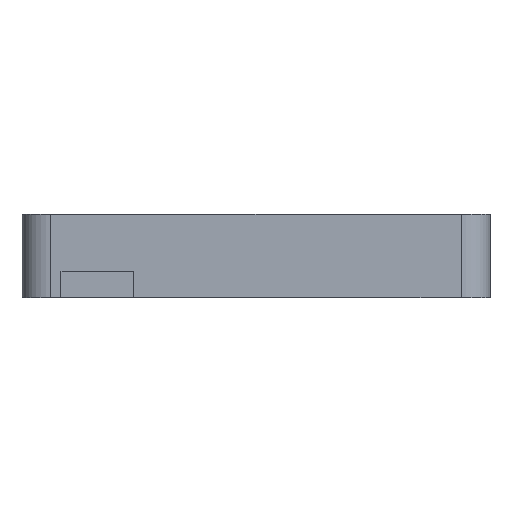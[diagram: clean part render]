
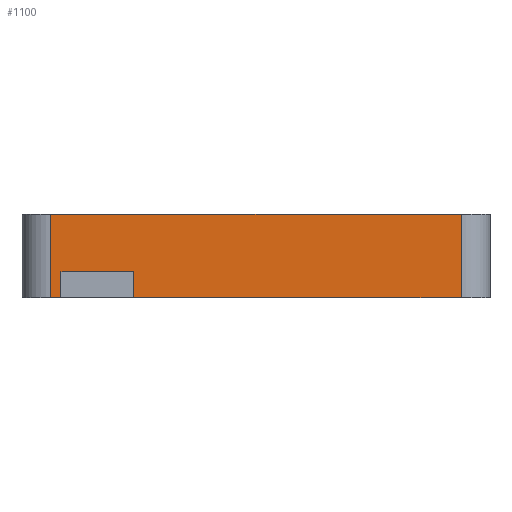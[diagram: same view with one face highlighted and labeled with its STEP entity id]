
A CAD part, front view. The second image highlights one B-rep face of the part: STEP entity #1100.
In plain terms, the highlighted planar face has unit normal (0, -1, 0).
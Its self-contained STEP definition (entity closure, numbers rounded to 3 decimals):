
#44 = PLANE('',#45);
#45 = AXIS2_PLACEMENT_3D('',#46,#47,#48);
#46 = CARTESIAN_POINT('',(-32.4,-44.4,11.5));
#47 = DIRECTION('',(0.,0.,1.));
#48 = DIRECTION('',(1.,0.,0.));
#72 = CYLINDRICAL_SURFACE('',#73,4.);
#73 = AXIS2_PLACEMENT_3D('',#74,#75,#76);
#74 = CARTESIAN_POINT('',(-28.4,-40.4,0.));
#75 = DIRECTION('',(0.,0.,1.));
#76 = DIRECTION('',(-1.,-0.,0.));
#100 = PLANE('',#101);
#101 = AXIS2_PLACEMENT_3D('',#102,#103,#104);
#102 = CARTESIAN_POINT('',(-32.4,-44.4,0.));
#103 = DIRECTION('',(0.,0.,1.));
#104 = DIRECTION('',(1.,0.,0.));
#249 = VERTEX_POINT('',#250);
#250 = CARTESIAN_POINT('',(-28.4,-44.4,11.5));
#272 = EDGE_CURVE('',#249,#273,#275,.T.);
#273 = VERTEX_POINT('',#274);
#274 = CARTESIAN_POINT('',(28.4,-44.4,11.5));
#275 = SURFACE_CURVE('',#276,(#280,#287),.PCURVE_S1.);
#276 = LINE('',#277,#278);
#277 = CARTESIAN_POINT('',(-32.4,-44.4,11.5));
#278 = VECTOR('',#279,1.);
#279 = DIRECTION('',(1.,0.,0.));
#280 = PCURVE('',#44,#281);
#281 = DEFINITIONAL_REPRESENTATION('',(#282),#286);
#282 = LINE('',#283,#284);
#283 = CARTESIAN_POINT('',(0.,0.));
#284 = VECTOR('',#285,1.);
#285 = DIRECTION('',(1.,0.));
#286 = ( GEOMETRIC_REPRESENTATION_CONTEXT(2) 
PARAMETRIC_REPRESENTATION_CONTEXT() REPRESENTATION_CONTEXT('2D SPACE',''
  ) );
#287 = PCURVE('',#288,#293);
#288 = PLANE('',#289);
#289 = AXIS2_PLACEMENT_3D('',#290,#291,#292);
#290 = CARTESIAN_POINT('',(-32.4,-44.4,0.));
#291 = DIRECTION('',(0.,1.,0.));
#292 = DIRECTION('',(0.,0.,1.));
#293 = DEFINITIONAL_REPRESENTATION('',(#294),#298);
#294 = LINE('',#295,#296);
#295 = CARTESIAN_POINT('',(11.5,0.));
#296 = VECTOR('',#297,1.);
#297 = DIRECTION('',(0.,1.));
#298 = ( GEOMETRIC_REPRESENTATION_CONTEXT(2) 
PARAMETRIC_REPRESENTATION_CONTEXT() REPRESENTATION_CONTEXT('2D SPACE',''
  ) );
#321 = CYLINDRICAL_SURFACE('',#322,4.);
#322 = AXIS2_PLACEMENT_3D('',#323,#324,#325);
#323 = CARTESIAN_POINT('',(28.4,-40.4,0.));
#324 = DIRECTION('',(0.,0.,1.));
#325 = DIRECTION('',(1.,0.,-0.));
#952 = VERTEX_POINT('',#953);
#953 = CARTESIAN_POINT('',(-28.4,-44.4,0.));
#975 = EDGE_CURVE('',#952,#976,#978,.T.);
#976 = VERTEX_POINT('',#977);
#977 = CARTESIAN_POINT('',(-27.,-44.4,0.));
#978 = SURFACE_CURVE('',#979,(#983,#990),.PCURVE_S1.);
#979 = LINE('',#980,#981);
#980 = CARTESIAN_POINT('',(-32.4,-44.4,0.));
#981 = VECTOR('',#982,1.);
#982 = DIRECTION('',(1.,0.,0.));
#983 = PCURVE('',#100,#984);
#984 = DEFINITIONAL_REPRESENTATION('',(#985),#989);
#985 = LINE('',#986,#987);
#986 = CARTESIAN_POINT('',(0.,0.));
#987 = VECTOR('',#988,1.);
#988 = DIRECTION('',(1.,0.));
#989 = ( GEOMETRIC_REPRESENTATION_CONTEXT(2) 
PARAMETRIC_REPRESENTATION_CONTEXT() REPRESENTATION_CONTEXT('2D SPACE',''
  ) );
#990 = PCURVE('',#288,#991);
#991 = DEFINITIONAL_REPRESENTATION('',(#992),#996);
#992 = LINE('',#993,#994);
#993 = CARTESIAN_POINT('',(0.,0.));
#994 = VECTOR('',#995,1.);
#995 = DIRECTION('',(0.,1.));
#996 = ( GEOMETRIC_REPRESENTATION_CONTEXT(2) 
PARAMETRIC_REPRESENTATION_CONTEXT() REPRESENTATION_CONTEXT('2D SPACE',''
  ) );
#1013 = PLANE('',#1014);
#1014 = AXIS2_PLACEMENT_3D('',#1015,#1016,#1017);
#1015 = CARTESIAN_POINT('',(-27.,-47.4,-0.4));
#1016 = DIRECTION('',(1.,0.,0.));
#1017 = DIRECTION('',(0.,0.,1.));
#1078 = EDGE_CURVE('',#952,#249,#1079,.T.);
#1079 = SURFACE_CURVE('',#1080,(#1084,#1091),.PCURVE_S1.);
#1080 = LINE('',#1081,#1082);
#1081 = CARTESIAN_POINT('',(-28.4,-44.4,0.));
#1082 = VECTOR('',#1083,1.);
#1083 = DIRECTION('',(0.,0.,1.));
#1084 = PCURVE('',#72,#1085);
#1085 = DEFINITIONAL_REPRESENTATION('',(#1086),#1090);
#1086 = LINE('',#1087,#1088);
#1087 = CARTESIAN_POINT('',(1.571,0.));
#1088 = VECTOR('',#1089,1.);
#1089 = DIRECTION('',(0.,1.));
#1090 = ( GEOMETRIC_REPRESENTATION_CONTEXT(2) 
PARAMETRIC_REPRESENTATION_CONTEXT() REPRESENTATION_CONTEXT('2D SPACE',''
  ) );
#1091 = PCURVE('',#288,#1092);
#1092 = DEFINITIONAL_REPRESENTATION('',(#1093),#1097);
#1093 = LINE('',#1094,#1095);
#1094 = CARTESIAN_POINT('',(0.,4.));
#1095 = VECTOR('',#1096,1.);
#1096 = DIRECTION('',(1.,0.));
#1097 = ( GEOMETRIC_REPRESENTATION_CONTEXT(2) 
PARAMETRIC_REPRESENTATION_CONTEXT() REPRESENTATION_CONTEXT('2D SPACE',''
  ) );
#1100 = ADVANCED_FACE('',(#1101),#288,.F.);
#1101 = FACE_BOUND('',#1102,.F.);
#1102 = EDGE_LOOP('',(#1103,#1104,#1105,#1106,#1129,#1157,#1183,#1209));
#1103 = ORIENTED_EDGE('',*,*,#975,.F.);
#1104 = ORIENTED_EDGE('',*,*,#1078,.T.);
#1105 = ORIENTED_EDGE('',*,*,#272,.T.);
#1106 = ORIENTED_EDGE('',*,*,#1107,.F.);
#1107 = EDGE_CURVE('',#1108,#273,#1110,.T.);
#1108 = VERTEX_POINT('',#1109);
#1109 = CARTESIAN_POINT('',(28.4,-44.4,0.));
#1110 = SURFACE_CURVE('',#1111,(#1115,#1122),.PCURVE_S1.);
#1111 = LINE('',#1112,#1113);
#1112 = CARTESIAN_POINT('',(28.4,-44.4,0.));
#1113 = VECTOR('',#1114,1.);
#1114 = DIRECTION('',(0.,0.,1.));
#1115 = PCURVE('',#288,#1116);
#1116 = DEFINITIONAL_REPRESENTATION('',(#1117),#1121);
#1117 = LINE('',#1118,#1119);
#1118 = CARTESIAN_POINT('',(0.,60.8));
#1119 = VECTOR('',#1120,1.);
#1120 = DIRECTION('',(1.,0.));
#1121 = ( GEOMETRIC_REPRESENTATION_CONTEXT(2) 
PARAMETRIC_REPRESENTATION_CONTEXT() REPRESENTATION_CONTEXT('2D SPACE',''
  ) );
#1122 = PCURVE('',#321,#1123);
#1123 = DEFINITIONAL_REPRESENTATION('',(#1124),#1128);
#1124 = LINE('',#1125,#1126);
#1125 = CARTESIAN_POINT('',(-1.571,0.));
#1126 = VECTOR('',#1127,1.);
#1127 = DIRECTION('',(-0.,1.));
#1128 = ( GEOMETRIC_REPRESENTATION_CONTEXT(2) 
PARAMETRIC_REPRESENTATION_CONTEXT() REPRESENTATION_CONTEXT('2D SPACE',''
  ) );
#1129 = ORIENTED_EDGE('',*,*,#1130,.F.);
#1130 = EDGE_CURVE('',#1131,#1108,#1133,.T.);
#1131 = VERTEX_POINT('',#1132);
#1132 = CARTESIAN_POINT('',(-17.,-44.4,0.));
#1133 = SURFACE_CURVE('',#1134,(#1138,#1145),.PCURVE_S1.);
#1134 = LINE('',#1135,#1136);
#1135 = CARTESIAN_POINT('',(-32.4,-44.4,0.));
#1136 = VECTOR('',#1137,1.);
#1137 = DIRECTION('',(1.,0.,0.));
#1138 = PCURVE('',#288,#1139);
#1139 = DEFINITIONAL_REPRESENTATION('',(#1140),#1144);
#1140 = LINE('',#1141,#1142);
#1141 = CARTESIAN_POINT('',(0.,0.));
#1142 = VECTOR('',#1143,1.);
#1143 = DIRECTION('',(0.,1.));
#1144 = ( GEOMETRIC_REPRESENTATION_CONTEXT(2) 
PARAMETRIC_REPRESENTATION_CONTEXT() REPRESENTATION_CONTEXT('2D SPACE',''
  ) );
#1145 = PCURVE('',#1146,#1151);
#1146 = PLANE('',#1147);
#1147 = AXIS2_PLACEMENT_3D('',#1148,#1149,#1150);
#1148 = CARTESIAN_POINT('',(-32.4,-44.4,0.));
#1149 = DIRECTION('',(0.,0.,1.));
#1150 = DIRECTION('',(1.,0.,0.));
#1151 = DEFINITIONAL_REPRESENTATION('',(#1152),#1156);
#1152 = LINE('',#1153,#1154);
#1153 = CARTESIAN_POINT('',(0.,0.));
#1154 = VECTOR('',#1155,1.);
#1155 = DIRECTION('',(1.,0.));
#1156 = ( GEOMETRIC_REPRESENTATION_CONTEXT(2) 
PARAMETRIC_REPRESENTATION_CONTEXT() REPRESENTATION_CONTEXT('2D SPACE',''
  ) );
#1157 = ORIENTED_EDGE('',*,*,#1158,.F.);
#1158 = EDGE_CURVE('',#1159,#1131,#1161,.T.);
#1159 = VERTEX_POINT('',#1160);
#1160 = CARTESIAN_POINT('',(-17.,-44.4,3.6));
#1161 = SURFACE_CURVE('',#1162,(#1166,#1172),.PCURVE_S1.);
#1162 = LINE('',#1163,#1164);
#1163 = CARTESIAN_POINT('',(-17.,-44.4,-0.2));
#1164 = VECTOR('',#1165,1.);
#1165 = DIRECTION('',(0.,0.,-1.));
#1166 = PCURVE('',#288,#1167);
#1167 = DEFINITIONAL_REPRESENTATION('',(#1168),#1171);
#1168 = B_SPLINE_CURVE_WITH_KNOTS('',1,(#1169,#1170),.UNSPECIFIED.,.F.,
  .F.,(2,2),(-3.8,-0.2),.PIECEWISE_BEZIER_KNOTS.);
#1169 = CARTESIAN_POINT('',(3.6,15.4));
#1170 = CARTESIAN_POINT('',(0.,15.4));
#1171 = ( GEOMETRIC_REPRESENTATION_CONTEXT(2) 
PARAMETRIC_REPRESENTATION_CONTEXT() REPRESENTATION_CONTEXT('2D SPACE',''
  ) );
#1172 = PCURVE('',#1173,#1178);
#1173 = PLANE('',#1174);
#1174 = AXIS2_PLACEMENT_3D('',#1175,#1176,#1177);
#1175 = CARTESIAN_POINT('',(-17.,-47.4,-0.4));
#1176 = DIRECTION('',(1.,0.,0.));
#1177 = DIRECTION('',(0.,0.,1.));
#1178 = DEFINITIONAL_REPRESENTATION('',(#1179),#1182);
#1179 = B_SPLINE_CURVE_WITH_KNOTS('',1,(#1180,#1181),.UNSPECIFIED.,.F.,
  .F.,(2,2),(-3.8,-0.2),.PIECEWISE_BEZIER_KNOTS.);
#1180 = CARTESIAN_POINT('',(4.,-3.));
#1181 = CARTESIAN_POINT('',(0.4,-3.));
#1182 = ( GEOMETRIC_REPRESENTATION_CONTEXT(2) 
PARAMETRIC_REPRESENTATION_CONTEXT() REPRESENTATION_CONTEXT('2D SPACE',''
  ) );
#1183 = ORIENTED_EDGE('',*,*,#1184,.F.);
#1184 = EDGE_CURVE('',#1185,#1159,#1187,.T.);
#1185 = VERTEX_POINT('',#1186);
#1186 = CARTESIAN_POINT('',(-27.,-44.4,3.6));
#1187 = SURFACE_CURVE('',#1188,(#1192,#1198),.PCURVE_S1.);
#1188 = LINE('',#1189,#1190);
#1189 = CARTESIAN_POINT('',(-29.7,-44.4,3.6));
#1190 = VECTOR('',#1191,1.);
#1191 = DIRECTION('',(1.,0.,0.));
#1192 = PCURVE('',#288,#1193);
#1193 = DEFINITIONAL_REPRESENTATION('',(#1194),#1197);
#1194 = B_SPLINE_CURVE_WITH_KNOTS('',1,(#1195,#1196),.UNSPECIFIED.,.F.,
  .F.,(2,2),(2.7,12.7),.PIECEWISE_BEZIER_KNOTS.);
#1195 = CARTESIAN_POINT('',(3.6,5.4));
#1196 = CARTESIAN_POINT('',(3.6,15.4));
#1197 = ( GEOMETRIC_REPRESENTATION_CONTEXT(2) 
PARAMETRIC_REPRESENTATION_CONTEXT() REPRESENTATION_CONTEXT('2D SPACE',''
  ) );
#1198 = PCURVE('',#1199,#1204);
#1199 = PLANE('',#1200);
#1200 = AXIS2_PLACEMENT_3D('',#1201,#1202,#1203);
#1201 = CARTESIAN_POINT('',(-27.,-47.4,3.6));
#1202 = DIRECTION('',(0.,0.,1.));
#1203 = DIRECTION('',(1.,0.,0.));
#1204 = DEFINITIONAL_REPRESENTATION('',(#1205),#1208);
#1205 = B_SPLINE_CURVE_WITH_KNOTS('',1,(#1206,#1207),.UNSPECIFIED.,.F.,
  .F.,(2,2),(2.7,12.7),.PIECEWISE_BEZIER_KNOTS.);
#1206 = CARTESIAN_POINT('',(0.,3.));
#1207 = CARTESIAN_POINT('',(10.,3.));
#1208 = ( GEOMETRIC_REPRESENTATION_CONTEXT(2) 
PARAMETRIC_REPRESENTATION_CONTEXT() REPRESENTATION_CONTEXT('2D SPACE',''
  ) );
#1209 = ORIENTED_EDGE('',*,*,#1210,.T.);
#1210 = EDGE_CURVE('',#1185,#976,#1211,.T.);
#1211 = SURFACE_CURVE('',#1212,(#1216,#1222),.PCURVE_S1.);
#1212 = LINE('',#1213,#1214);
#1213 = CARTESIAN_POINT('',(-27.,-44.4,-0.2));
#1214 = VECTOR('',#1215,1.);
#1215 = DIRECTION('',(0.,0.,-1.));
#1216 = PCURVE('',#288,#1217);
#1217 = DEFINITIONAL_REPRESENTATION('',(#1218),#1221);
#1218 = B_SPLINE_CURVE_WITH_KNOTS('',1,(#1219,#1220),.UNSPECIFIED.,.F.,
  .F.,(2,2),(-3.8,-0.2),.PIECEWISE_BEZIER_KNOTS.);
#1219 = CARTESIAN_POINT('',(3.6,5.4));
#1220 = CARTESIAN_POINT('',(0.,5.4));
#1221 = ( GEOMETRIC_REPRESENTATION_CONTEXT(2) 
PARAMETRIC_REPRESENTATION_CONTEXT() REPRESENTATION_CONTEXT('2D SPACE',''
  ) );
#1222 = PCURVE('',#1013,#1223);
#1223 = DEFINITIONAL_REPRESENTATION('',(#1224),#1227);
#1224 = B_SPLINE_CURVE_WITH_KNOTS('',1,(#1225,#1226),.UNSPECIFIED.,.F.,
  .F.,(2,2),(-3.8,-0.2),.PIECEWISE_BEZIER_KNOTS.);
#1225 = CARTESIAN_POINT('',(4.,-3.));
#1226 = CARTESIAN_POINT('',(0.4,-3.));
#1227 = ( GEOMETRIC_REPRESENTATION_CONTEXT(2) 
PARAMETRIC_REPRESENTATION_CONTEXT() REPRESENTATION_CONTEXT('2D SPACE',''
  ) );
